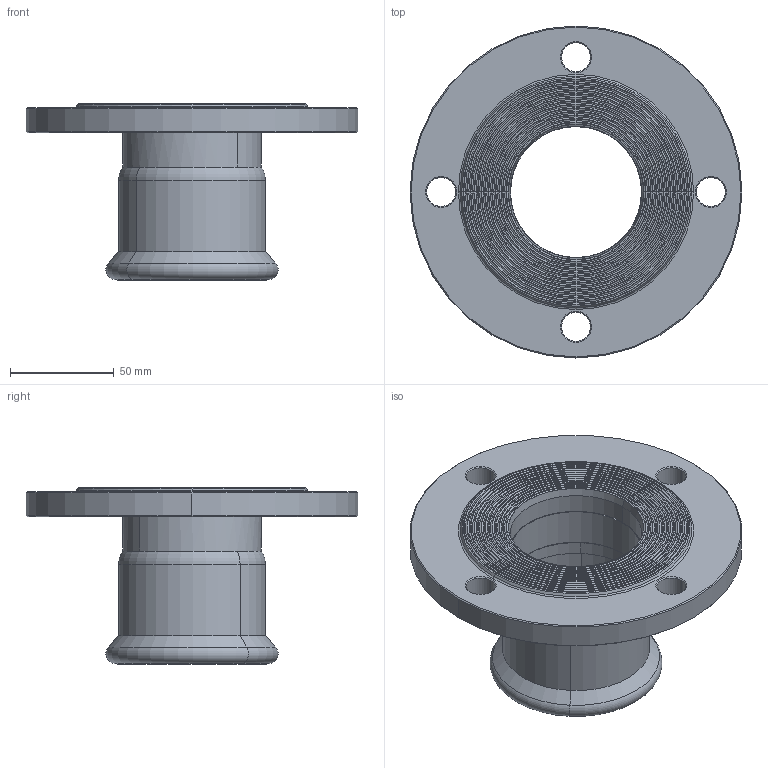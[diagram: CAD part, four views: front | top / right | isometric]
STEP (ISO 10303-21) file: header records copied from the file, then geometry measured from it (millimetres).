
FILE_DESCRIPTION(('CoCreate Modeling STEP Export'),'2;1');
FILE_NAME('C1427 67.stp','2014-10-23T16:04:09',(''),(''),'CoCreate Modeling STEP processor for AP214 (Solid Model)','CoCreate Modeling 17.00A 17-Jun-2010 (C) Parametric Technology GmbH','');
FILE_SCHEMA(('AUTOMOTIVE_DESIGN { 1 0 10303 214 1 1 1 1 }'));
Length unit declared in the file: millimetre
Products named in the file (2): Flens_PN6_67mm
Assembly tree (1 placements, depth 2):
  Flens_PN6_67mm
    Flens_PN6_67mm
Bounding box: 160 x 160 x 85.04 mm (x, y, z)
Volume: 247156.2 mm3; surface area: 76782.6 mm2
Topology: 1 solids, 1 shells, 144 faces, 310 edges, 184 vertices
Faces by surface type: torus 64, cone 36, cylinder 26, plane 18
Entity records: 3108 total; most frequent: ORIENTED_EDGE 620, DIRECTION 476, CARTESIAN_POINT 453, EDGE_CURVE 310, AXIS2_PLACEMENT_3D 207, VERTEX_POINT 184, EDGE_LOOP 170, CIRCLE 149
